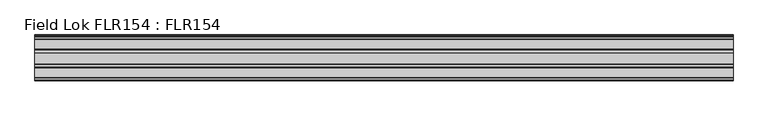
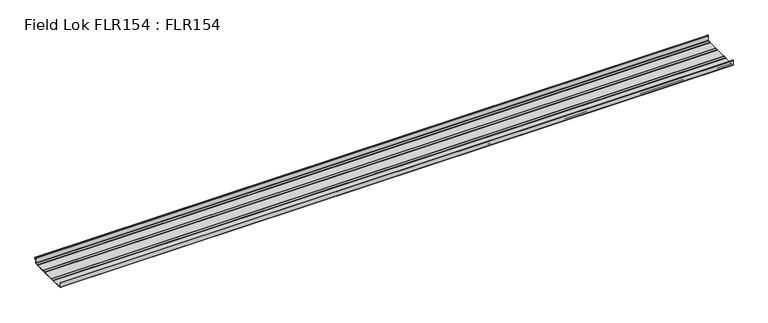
"""IFC4 building model written with IfcOpenShell, lengths in millimetres: proxy geometry, Field Lok FLR154 : FLR154."""

from ifc_helpers import new_model, si_unit, point, frame, frame_2d, origin, place, context, project, spatial, polyline, circle_curve, trimmed, segment, composite_curve, outline, extrude, source, transform, mapped, element, save


def field_lok_flr154_flr154_6b782a5d(model_context):
    return source(origin(), model_context, "Body", "SweptSolid", [
        extrude(outline(composite_curve([segment(trimmed(circle_curve(frame_2d((53.035858, 47.6459449)), 2.0205268), [point((51.0153311, 47.6459449))], [point((55.0563848, 47.6459449))], False, "CARTESIAN"), True, "CONTINUOUS"), segment(polyline([(55.0563848, 47.6459449), (55.0563848, 41.9160781), (54.2153035, 41.9160781), (54.2153035, 47.6459449)]), True, "CONTINUOUS"), segment(trimmed(circle_curve(frame_2d((52.9799652, 47.6459449)), 1.2353382), [point((54.2153035, 47.6459449))], [point((51.744627, 47.6459449))], True, "CARTESIAN"), True, "CONTINUOUS"), segment(polyline([(51.744627, 47.6459449), (51.744627, 6.5709481)]), True, "CONTINUOUS"), segment(trimmed(circle_curve(frame_2d((54.8461145, 6.5709481)), 3.1014875), [point((51.744627, 6.5709481))], [point((54.8461145, 3.4694606))], True, "CARTESIAN"), True, "CONTINUOUS"), segment(polyline([(54.8461145, 3.4694606), (76.9695961, 3.4694606)]), True, "CONTINUOUS"), segment(trimmed(circle_curve(frame_2d((76.9695961, 2.1027034)), 1.3667572), [point((76.9695961, 3.4694606))], [point((77.9360394, 3.0691467))], False, "CARTESIAN"), True, "CONTINUOUS"), segment(polyline([(77.9360394, 3.0691467), (80.1641047, 0.8410814), (164.4491649, 0.8410814), (166.6772302, 3.0691467)]), True, "CONTINUOUS"), segment(trimmed(circle_curve(frame_2d((167.6436735, 2.1027034)), 1.3667572), [point((166.6772302, 3.0691467))], [point((167.6436735, 3.4694606))], False, "CARTESIAN"), True, "CONTINUOUS"), segment(polyline([(167.6436735, 3.4694606), (193.0436735, 3.4694606)]), True, "CONTINUOUS"), segment(trimmed(circle_curve(frame_2d((193.0436735, 2.1027034)), 1.3667572), [point((193.0436735, 3.4694606))], [point((194.0101168, 3.0691467))], False, "CARTESIAN"), True, "CONTINUOUS"), segment(polyline([(194.0101168, 3.0691467), (196.2381821, 0.8410814), (293.7775072, 0.8410814), (296.0055725, 3.0691467)]), True, "CONTINUOUS"), segment(trimmed(circle_curve(frame_2d((296.9720158, 2.1027034)), 1.3667572), [point((296.0055725, 3.0691467))], [point((296.9720158, 3.4694606))], False, "CARTESIAN"), True, "CONTINUOUS"), segment(polyline([(296.9720158, 3.4694606), (322.3720158, 3.4694606)]), True, "CONTINUOUS"), segment(trimmed(circle_curve(frame_2d((322.3720158, 2.1027034)), 1.3667572), [point((322.3720158, 3.4694606))], [point((323.3384591, 3.0691467))], False, "CARTESIAN"), True, "CONTINUOUS"), segment(polyline([(323.3384591, 3.0691467), (325.5665245, 0.8410814), (409.7708225, 0.8410814), (411.9988879, 3.0691467)]), True, "CONTINUOUS"), segment(trimmed(circle_curve(frame_2d((412.9653311, 2.1027034)), 1.3667572), [point((411.9988879, 3.0691467))], [point((412.9653311, 3.4694606))], False, "CARTESIAN"), True, "CONTINUOUS"), segment(polyline([(412.9653311, 3.4694606), (435.15703, 3.4694606)]), True, "CONTINUOUS"), segment(trimmed(circle_curve(frame_2d((435.15703, 6.5709481)), 3.1014875), [point((435.15703, 3.4694606))], [point((438.2580451, 6.5168197))], True, "CARTESIAN"), True, "CONTINUOUS"), segment(polyline([(438.2580451, 6.5168197), (439.0003582, 49.0439067)]), True, "CONTINUOUS"), segment(trimmed(circle_curve(frame_2d((441.9174148, 48.9929893)), 2.917501), [point((439.0003582, 49.0439067))], [point((441.9174148, 51.9104902))], False, "CARTESIAN"), True, "CONTINUOUS"), segment(polyline([(441.9174148, 51.9104902), (448.0944223, 51.9104902)]), True, "CONTINUOUS"), segment(trimmed(circle_curve(frame_2d((448.0944223, 48.9929893)), 2.917501), [point((448.0944223, 51.9104902))], [point((451.0119232, 48.9929893))], False, "CARTESIAN"), True, "CONTINUOUS"), segment(polyline([(451.0119232, 48.9929893), (451.0119232, 41.7649463)]), True, "CONTINUOUS"), segment(trimmed(circle_curve(frame_2d((448.383544, 41.7649463)), 2.6283793), [point((451.0119232, 41.7649463))], [point((445.7551647, 41.7649463))], False, "CARTESIAN"), True, "CONTINUOUS"), segment(polyline([(445.7551647, 41.7649463), (445.7551647, 47.5473807), (446.5962461, 47.5473807), (446.5962461, 41.7649463)]), True, "CONTINUOUS"), segment(trimmed(circle_curve(frame_2d((448.383544, 41.7649463)), 1.7872979), [point((446.5962461, 41.7649463))], [point((450.1708419, 41.7649463))], True, "CARTESIAN"), True, "CONTINUOUS"), segment(polyline([(450.1708419, 41.7649463), (450.1708419, 48.9929893)]), True, "CONTINUOUS"), segment(trimmed(circle_curve(frame_2d((448.0944223, 48.9929893)), 2.0764196), [point((450.1708419, 48.9929893))], [point((448.0944223, 51.0694089))], True, "CARTESIAN"), True, "CONTINUOUS"), segment(polyline([(448.0944223, 51.0694089), (441.9174148, 51.0694089)]), True, "CONTINUOUS"), segment(trimmed(circle_curve(frame_2d((441.9174148, 48.9929893)), 2.0764196), [point((441.9174148, 51.0694089))], [point((439.8413114, 49.0292278))], True, "CARTESIAN"), True, "CONTINUOUS"), segment(polyline([(439.8413114, 49.0292278), (439.0989984, 6.5021408)]), True, "CONTINUOUS"), segment(trimmed(circle_curve(frame_2d((435.15703, 6.5709481)), 3.9425689), [point((439.0989984, 6.5021408))], [point((435.15703, 2.6283793))], False, "CARTESIAN"), True, "CONTINUOUS"), segment(polyline([(435.15703, 2.6283793), (412.7475891, 2.6283793), (410.5195237, 0.4003139)]), True, "CONTINUOUS"), segment(trimmed(circle_curve(frame_2d((409.5530805, 1.3667572)), 1.3667572), [point((410.5195237, 0.4003139))], [point((409.5530805, 0.0))], False, "CARTESIAN"), True, "CONTINUOUS"), segment(polyline([(409.5530805, 0.0), (325.7842665, 0.0)]), True, "CONTINUOUS"), segment(trimmed(circle_curve(frame_2d((325.7842665, 1.3667572)), 1.3667572), [point((325.7842665, 0.0))], [point((324.8178232, 0.4003139))], False, "CARTESIAN"), True, "CONTINUOUS"), segment(polyline([(324.8178232, 0.4003139), (322.5897579, 2.6283793), (296.7542738, 2.6283793), (294.5262084, 0.4003139)]), True, "CONTINUOUS"), segment(trimmed(circle_curve(frame_2d((293.5597651, 1.3667572)), 1.3667572), [point((294.5262084, 0.4003139))], [point((293.5597651, 0.0))], False, "CARTESIAN"), True, "CONTINUOUS"), segment(polyline([(293.5597651, 0.0), (196.4559242, 0.0)]), True, "CONTINUOUS"), segment(trimmed(circle_curve(frame_2d((196.4559242, 1.3667572)), 1.3667572), [point((196.4559242, 0.0))], [point((195.4894809, 0.4003139))], False, "CARTESIAN"), True, "CONTINUOUS"), segment(polyline([(195.4894809, 0.4003139), (193.2614156, 2.6283793), (167.4259314, 2.6283793), (165.1978661, 0.4003139)]), True, "CONTINUOUS"), segment(trimmed(circle_curve(frame_2d((164.2314228, 1.3667572)), 1.3667572), [point((165.1978661, 0.4003139))], [point((164.2314228, 0.0))], False, "CARTESIAN"), True, "CONTINUOUS"), segment(polyline([(164.2314228, 0.0), (80.3818468, 0.0)]), True, "CONTINUOUS"), segment(trimmed(circle_curve(frame_2d((80.3818468, 1.3667572)), 1.3667572), [point((80.3818468, 0.0))], [point((79.4154035, 0.4003139))], False, "CARTESIAN"), True, "CONTINUOUS"), segment(polyline([(79.4154035, 0.4003139), (77.1873381, 2.6283793), (54.9579, 2.6283793)]), True, "CONTINUOUS"), segment(trimmed(circle_curve(frame_2d((54.9579, 6.5709481)), 3.9425689), [point((54.9579, 2.6283793))], [point((51.0153311, 6.5709481))], False, "CARTESIAN"), True, "CONTINUOUS"), segment(polyline([(51.0153311, 6.5709481), (51.0153311, 47.6459449)]), True, "CONTINUOUS")], self_intersect=False)), frame((-3140.195459, 0.0, 0.0), z_axis=(1.0, 0.0, 0.0), x_axis=(0.0, 1.0, 0.0)), (0.0, 0.0, 1.0), 6096.0),
    ])


if __name__ == "__main__":
    model = new_model("IFC4")
    model_context = context("Model", 3, world=origin())
    ifc_project = project(units=[si_unit("LENGTHUNIT", "METRE", prefix="MILLI")], contexts=[model_context])
    site = spatial("IfcSite", under=ifc_project)
    building = spatial("IfcBuilding", under=site)
    placement = place(None, origin())
    field_lok_flr154_flr154_shape = field_lok_flr154_flr154_6b782a5d(model_context)
    element("IfcBuildingElementProxy", 1, Name="Field Lok FLR154 : FLR154", ObjectType="Field Lok FLR154 : FLR154", at=placement, inside=building, context=model_context, shape_type="MappedRepresentation", body=[
        mapped(field_lok_flr154_flr154_shape, transform((0.0, 0.0, 0.0), x_axis=(1.0, 0.0, 0.0), y_axis=(0.0, 1.0, 0.0), z_axis=(0.0, 0.0, 1.0))),
    ])
    save(model, "model.ifc")
